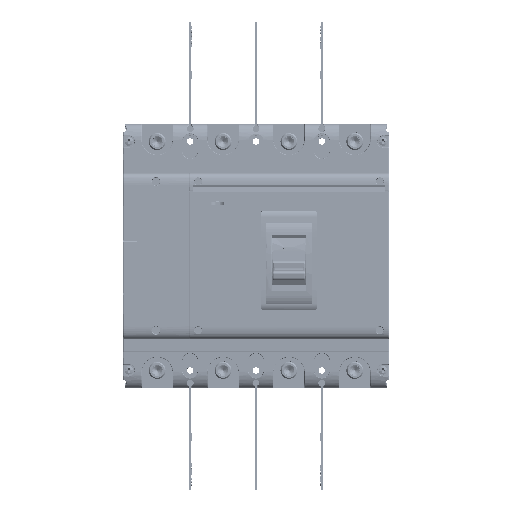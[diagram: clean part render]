
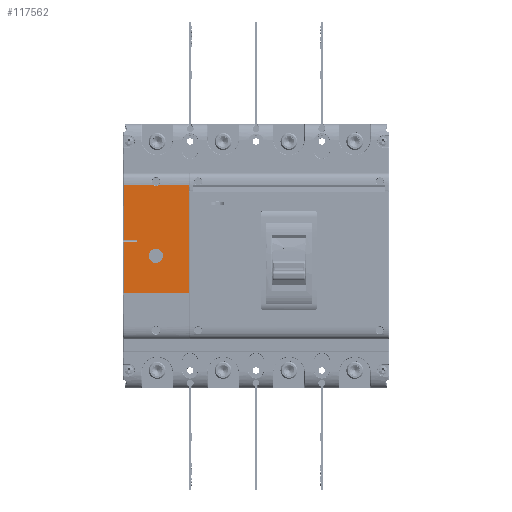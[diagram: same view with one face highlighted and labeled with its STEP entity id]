
A CAD part, top view. The second image highlights one B-rep face of the part: STEP entity #117562.
In plain terms, the highlighted planar face has unit normal (0, 0, 1) as drawn and (0, 1, 0) by its records, which use the part's own axes.
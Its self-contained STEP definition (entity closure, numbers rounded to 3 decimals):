
#3956 = CARTESIAN_POINT ( 'NONE',  ( 133.8, 117.2, 0. ) ) ;
#5576 = EDGE_LOOP ( 'NONE', ( #321466, #49237 ) ) ;
#7242 = VERTEX_POINT ( 'NONE', #59445 ) ;
#16495 = VECTOR ( 'NONE', #53481, 1000. ) ;
#27766 = DIRECTION ( 'NONE',  ( 0., 0., -1. ) ) ;
#30990 = ORIENTED_EDGE ( 'NONE', *, *, #323737, .T. ) ;
#33181 = CARTESIAN_POINT ( 'NONE',  ( 106.7, 117.2, -39.4 ) ) ;
#41360 = DIRECTION ( 'NONE',  ( 0., -1., 0. ) ) ;
#47358 = AXIS2_PLACEMENT_3D ( 'NONE', #136459, #215132, #247186 ) ;
#48363 = VERTEX_POINT ( 'NONE', #75556 ) ;
#49237 = ORIENTED_EDGE ( 'NONE', *, *, #311205, .F. ) ;
#50181 = VECTOR ( 'NONE', #27766, 1000. ) ;
#52855 = DIRECTION ( 'NONE',  ( 1., 0., 0. ) ) ;
#53481 = DIRECTION ( 'NONE',  ( 1., 0., 0. ) ) ;
#54555 = CARTESIAN_POINT ( 'NONE',  ( 175.5, 117.2, 74.895 ) ) ;
#56334 = CARTESIAN_POINT ( 'NONE',  ( 161., 117.2, 17.1 ) ) ;
#56805 = CARTESIAN_POINT ( 'NONE',  ( 148.8, 117.2, 0. ) ) ;
#59417 = CARTESIAN_POINT ( 'NONE',  ( 175.5, 117.2, 14.9 ) ) ;
#59445 = CARTESIAN_POINT ( 'NONE',  ( 175.5, 117.2, 74.895 ) ) ;
#61386 = PLANE ( 'NONE',  #158667 ) ;
#65950 = CARTESIAN_POINT ( 'NONE',  ( 141.3, 117.2, 0. ) ) ;
#66686 = FACE_BOUND ( 'NONE', #5576, .T. ) ;
#68200 = VERTEX_POINT ( 'NONE', #158144 ) ;
#68771 = VERTEX_POINT ( 'NONE', #3956 ) ;
#69719 = EDGE_CURVE ( 'NONE', #70408, #68771, #218451, .T. ) ;
#70408 = VERTEX_POINT ( 'NONE', #56805 ) ;
#71139 = VECTOR ( 'NONE', #274296, 1000. ) ;
#72023 = CIRCLE ( 'NONE', #277273, 7.5 ) ;
#75556 = CARTESIAN_POINT ( 'NONE',  ( 106.7, 117.2, 74.895 ) ) ;
#76583 = DIRECTION ( 'NONE',  ( -1., 0., 0. ) ) ;
#77899 = LINE ( 'NONE', #161851, #240537 ) ;
#77919 = DIRECTION ( 'NONE',  ( -1., 0., 0. ) ) ;
#79599 = LINE ( 'NONE', #54555, #50181 ) ;
#79980 = EDGE_CURVE ( 'NONE', #267574, #332524, #205311, .T. ) ;
#87957 = VECTOR ( 'NONE', #77919, 1000. ) ;
#90956 = CARTESIAN_POINT ( 'NONE',  ( 175.5, 117.2, 14.9 ) ) ;
#95708 = EDGE_CURVE ( 'NONE', #332524, #118061, #222448, .T. ) ;
#109632 = VERTEX_POINT ( 'NONE', #90956 ) ;
#111269 = LINE ( 'NONE', #59417, #87957 ) ;
#112352 = CARTESIAN_POINT ( 'NONE',  ( 143.69, 117.2, 74.895 ) ) ;
#116771 = DIRECTION ( 'NONE',  ( 0., 1., 0. ) ) ;
#117404 = VECTOR ( 'NONE', #244584, 1000. ) ;
#117562 = ADVANCED_FACE ( 'NONE', ( #66686, #339977 ), #61386, .T. ) ;
#118061 = VERTEX_POINT ( 'NONE', #177052 ) ;
#123217 = ORIENTED_EDGE ( 'NONE', *, *, #139106, .T. ) ;
#128919 = CARTESIAN_POINT ( 'NONE',  ( 161., 117.2, 17.1 ) ) ;
#130237 = EDGE_CURVE ( 'NONE', #48363, #68200, #77899, .T. ) ;
#135625 = CARTESIAN_POINT ( 'NONE',  ( 106.7, 117.2, -39.4 ) ) ;
#136459 = CARTESIAN_POINT ( 'NONE',  ( 141.3, 117.2, 0. ) ) ;
#138177 = EDGE_CURVE ( 'NONE', #68200, #173973, #163940, .T. ) ;
#138344 = CARTESIAN_POINT ( 'NONE',  ( 175.5, 117.2, -39.4 ) ) ;
#138525 = LINE ( 'NONE', #251011, #71139 ) ;
#139106 = EDGE_CURVE ( 'NONE', #7242, #267574, #79599, .T. ) ;
#141605 = VERTEX_POINT ( 'NONE', #33181 ) ;
#144990 = DIRECTION ( 'NONE',  ( -0.503, 0., -0.864 ) ) ;
#148098 = DIRECTION ( 'NONE',  ( 0., 1., 0. ) ) ;
#149888 = CARTESIAN_POINT ( 'NONE',  ( 143.69, 117.2, 74.895 ) ) ;
#151729 = CARTESIAN_POINT ( 'NONE',  ( 175.5, 117.2, 17.1 ) ) ;
#153320 = ORIENTED_EDGE ( 'NONE', *, *, #272773, .F. ) ;
#157980 = VECTOR ( 'NONE', #76583, 1000. ) ;
#158144 = CARTESIAN_POINT ( 'NONE',  ( 138.91, 117.2, 74.895 ) ) ;
#158667 = AXIS2_PLACEMENT_3D ( 'NONE', #286422, #116771, #225743 ) ;
#158924 = LINE ( 'NONE', #135625, #117404 ) ;
#161851 = CARTESIAN_POINT ( 'NONE',  ( 106.7, 117.2, 74.895 ) ) ;
#163940 = CIRCLE ( 'NONE', #209584, 4.75 ) ;
#164999 = LINE ( 'NONE', #222101, #200720 ) ;
#165336 = DIRECTION ( 'NONE',  ( 0., 0., -1. ) ) ;
#173973 = VERTEX_POINT ( 'NONE', #149888 ) ;
#177052 = CARTESIAN_POINT ( 'NONE',  ( 161., 117.2, 14.9 ) ) ;
#179992 = VERTEX_POINT ( 'NONE', #138344 ) ;
#185524 = EDGE_CURVE ( 'NONE', #141605, #179992, #164999, .T. ) ;
#192779 = LINE ( 'NONE', #112352, #16495 ) ;
#198693 = EDGE_LOOP ( 'NONE', ( #302309, #328828, #335419, #123217, #225593, #294386, #153320, #251771, #206138, #30990 ) ) ;
#200720 = VECTOR ( 'NONE', #281011, 1000. ) ;
#205311 = LINE ( 'NONE', #151729, #157980 ) ;
#206138 = ORIENTED_EDGE ( 'NONE', *, *, #185524, .F. ) ;
#209584 = AXIS2_PLACEMENT_3D ( 'NONE', #253978, #41360, #144990 ) ;
#215132 = DIRECTION ( 'NONE',  ( 0., 1., 0. ) ) ;
#218451 = CIRCLE ( 'NONE', #47358, 7.5 ) ;
#222101 = CARTESIAN_POINT ( 'NONE',  ( 106.7, 117.2, -39.4 ) ) ;
#222122 = EDGE_CURVE ( 'NONE', #173973, #7242, #192779, .T. ) ;
#222448 = LINE ( 'NONE', #56334, #306933 ) ;
#225593 = ORIENTED_EDGE ( 'NONE', *, *, #79980, .T. ) ;
#225743 = DIRECTION ( 'NONE',  ( 1., 0., 0. ) ) ;
#240537 = VECTOR ( 'NONE', #52855, 1000. ) ;
#244584 = DIRECTION ( 'NONE',  ( 0., 0., 1. ) ) ;
#247186 = DIRECTION ( 'NONE',  ( 1., 0., 0. ) ) ;
#251011 = CARTESIAN_POINT ( 'NONE',  ( 175.5, 117.2, 14.9 ) ) ;
#251771 = ORIENTED_EDGE ( 'NONE', *, *, #254265, .T. ) ;
#253978 = CARTESIAN_POINT ( 'NONE',  ( 141.3, 117.2, 79. ) ) ;
#254265 = EDGE_CURVE ( 'NONE', #109632, #179992, #138525, .T. ) ;
#257055 = DIRECTION ( 'NONE',  ( -1., 0., 0. ) ) ;
#267574 = VERTEX_POINT ( 'NONE', #272784 ) ;
#272773 = EDGE_CURVE ( 'NONE', #109632, #118061, #111269, .T. ) ;
#272784 = CARTESIAN_POINT ( 'NONE',  ( 175.5, 117.2, 17.1 ) ) ;
#274296 = DIRECTION ( 'NONE',  ( 0., 0., -1. ) ) ;
#277273 = AXIS2_PLACEMENT_3D ( 'NONE', #65950, #148098, #257055 ) ;
#281011 = DIRECTION ( 'NONE',  ( 1., 0., 0. ) ) ;
#286422 = CARTESIAN_POINT ( 'NONE',  ( 141.3, 117.2, 0. ) ) ;
#294386 = ORIENTED_EDGE ( 'NONE', *, *, #95708, .T. ) ;
#302309 = ORIENTED_EDGE ( 'NONE', *, *, #130237, .T. ) ;
#306933 = VECTOR ( 'NONE', #165336, 1000. ) ;
#311205 = EDGE_CURVE ( 'NONE', #68771, #70408, #72023, .T. ) ;
#321466 = ORIENTED_EDGE ( 'NONE', *, *, #69719, .F. ) ;
#323737 = EDGE_CURVE ( 'NONE', #141605, #48363, #158924, .T. ) ;
#328828 = ORIENTED_EDGE ( 'NONE', *, *, #138177, .T. ) ;
#332524 = VERTEX_POINT ( 'NONE', #128919 ) ;
#335419 = ORIENTED_EDGE ( 'NONE', *, *, #222122, .T. ) ;
#339977 = FACE_OUTER_BOUND ( 'NONE', #198693, .T. ) ;
